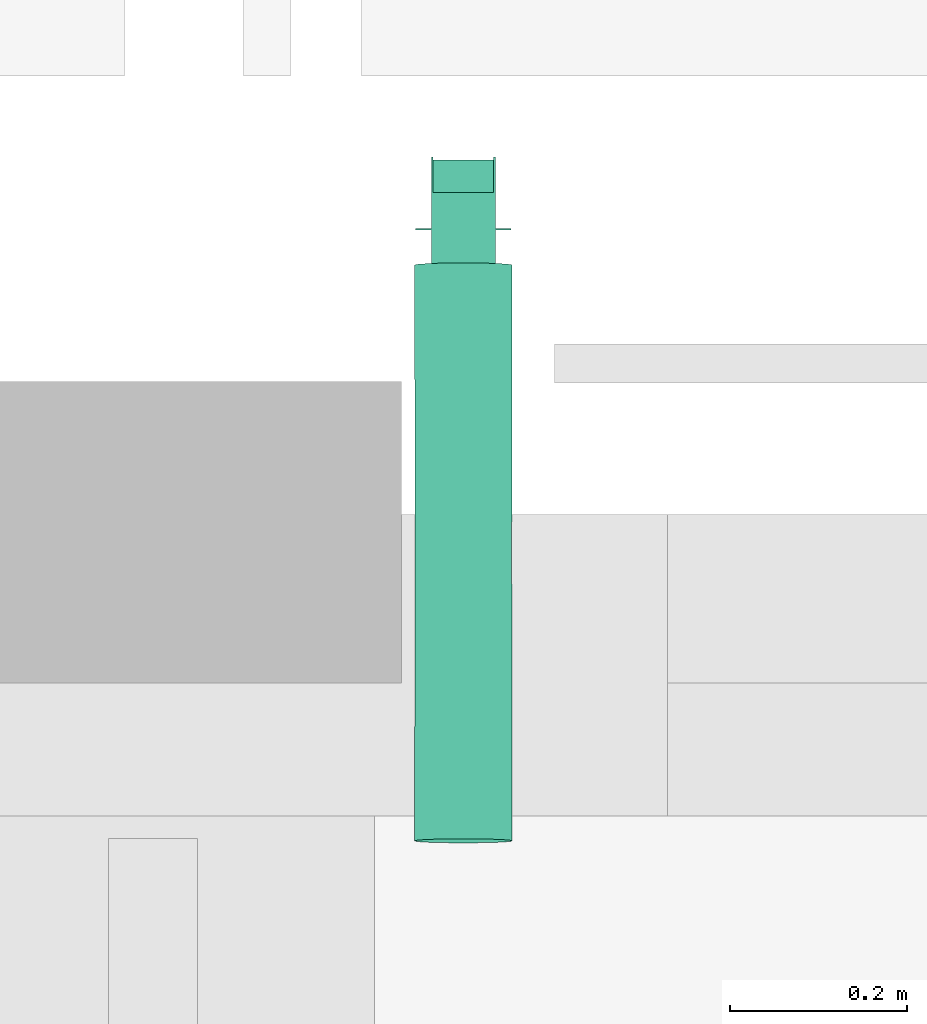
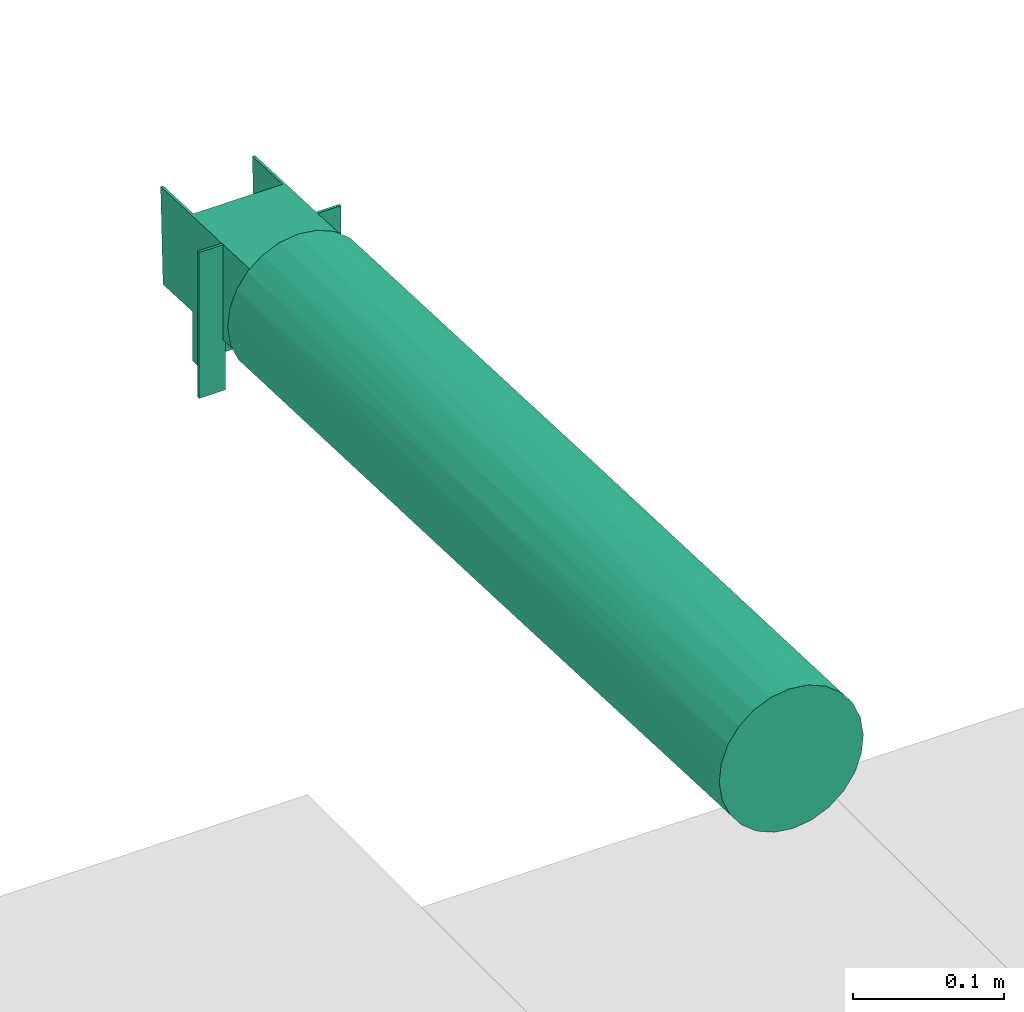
# One storey, part 25 of 26: 1 pipe fitting.
"""IFC4X3_ADD2 building model written with IfcOpenShell, lengths in millimetres."""

from ifc_helpers import new_model, si_unit, direction, frame, origin_with_axes, place, context, subcontext, project, spatial, polygons, source, transform, mapped, element, save


model = new_model("IFC4X3_ADD2")

# Units and contexts
model_context = context("Model", 3, precision=1e-05, world=origin_with_axes(), true_north=direction((0.0, 1.0)))
body_context = subcontext(model_context, "Body", "Model", "MODEL_VIEW")
ifc_project = project(units=[si_unit("LENGTHUNIT", "METRE", prefix="MILLI"), si_unit("AREAUNIT", "SQUARE_METRE"), si_unit("VOLUMEUNIT", "CUBIC_METRE"), si_unit("PLANEANGLEUNIT", "RADIAN"), si_unit("TIMEUNIT", "SECOND"), si_unit("MASSUNIT", "GRAM")], contexts=[model_context])

# Site, building, storey
site_placement = place(None, origin_with_axes())
site = spatial("IfcSite", under=ifc_project, at=site_placement, Name="Site", CompositionType="ELEMENT")
building_placement = place(site_placement, origin_with_axes())
building = spatial("IfcBuilding", under=site, at=building_placement, Name="IFC Building Story")
storey_placement = place(building_placement, frame((0.0, 0.0, 7200.0), z_axis=(0.0, 0.0, 1.0), x_axis=(1.0, 0.0, 0.0)))
storey = spatial("IfcBuildingStorey", under=building, at=storey_placement, Name="020", Elevation=7200.0)

# Pipe fitting
shared_shape = source(origin_with_axes(), body_context, "Body", "Tessellation", [
    polygons([(2.59527223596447, 80.2423912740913, 117.667377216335), (2.59527223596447, 80.2423912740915, 3.79003495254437e-11), (20.5952722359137, 80.2423912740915, 7.30935312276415e-11), (20.5952722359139, 80.2423912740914, 41.0150039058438), (20.5952722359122, 80.2423912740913, 117.667377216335), (2.59527223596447, 82.2423912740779, 117.667377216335), (2.59527223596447, 82.2423912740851, 7.28228144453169e-11), (110.595272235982, 82.2423912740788, 0.0), (110.595272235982, 82.2423912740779, 117.667377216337), (110.595272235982, 80.2423912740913, 117.667377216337), (110.595272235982, 80.2423912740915, 0.0), (92.5952722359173, 82.2423912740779, 117.667377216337), (92.5952722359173, 80.2423912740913, 117.667377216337), (92.5952722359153, 82.2423912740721, 41.0983372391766), (92.5952722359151, 80.2423912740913, 41.0150039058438), (20.5952722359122, 82.2423912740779, 117.667377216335), (20.5952722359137, 82.2423912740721, 41.0983372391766), (20.5952722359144, 42.242391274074, 1.12347464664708e-10), (20.5952722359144, 42.2423912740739, 39.4316705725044), (92.5952722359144, 42.2423912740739, 39.4316705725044), (92.5952722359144, 42.242391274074, 1.12347464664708e-10), (92.5952722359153, 80.2423912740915, 7.20106640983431e-11), (22.5952722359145, 82.2423912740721, 41.0983372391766), (22.5952722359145, 82.2423912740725, 1.08015996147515e-10), (22.5952722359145, 44.2423912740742, 9.33972899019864e-11), (90.5952722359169, 44.2423912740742, 9.33972899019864e-11), (90.5952722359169, 82.2423912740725, 1.08015996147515e-10), (90.5952722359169, 82.2423912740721, 41.0983372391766), (90.5952722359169, 44.2423912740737, 39.515003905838), (22.5952722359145, 44.2423912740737, 39.515003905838)], [[[4, 5, 1]], [[4, 1, 2]], [[2, 3, 4]], [[6, 7, 2, 1]], [[8, 9, 10, 11]], [[9, 12, 13, 10]], [[13, 12, 14, 15]], [[16, 5, 4, 17]], [[16, 6, 1, 5]], [[18, 19, 4, 3]], [[20, 21, 22, 15]], [[19, 18, 21, 20]], [[17, 23, 24]], [[17, 24, 7]], [[7, 6, 16]], [[7, 16, 17]], [[3, 2, 7]], [[3, 7, 24]], [[22, 21, 26]], [[22, 26, 27]], [[27, 8, 11]], [[27, 11, 22]], [[21, 18, 25]], [[21, 25, 26]], [[18, 3, 24]], [[18, 24, 25]], [[15, 14, 28]], [[4, 19, 30]], [[4, 30, 23]], [[23, 17, 4]], [[19, 20, 29]], [[19, 29, 30]], [[20, 15, 28]], [[20, 28, 29]], [[26, 29, 28, 27]], [[30, 25, 24, 23]], [[29, 26, 25, 30]], [[14, 12, 9]], [[14, 9, 8]], [[8, 27, 14]], [[27, 28, 14]], [[15, 22, 11]], [[11, 10, 13]], [[11, 13, 15]]]),
    polygons([(1.59527223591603, 121.601263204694, 81.2353264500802), (3.46935179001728, 122.193875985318, 67.0126197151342), (8.9638750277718, 122.746103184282, 53.7591669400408), (17.7043992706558, 123.220311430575, 42.378169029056), (29.0952722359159, 123.584184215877, 33.645222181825), (42.3602247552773, 123.812924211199, 28.1554622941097), (56.5952722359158, 123.890943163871, 26.2830074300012), (70.8303197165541, 123.812924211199, 28.1554622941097), (84.0952722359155, 123.584184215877, 33.6452221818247), (95.4861452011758, 123.220311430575, 42.3781690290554), (104.22666944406, 122.746103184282, 53.7591669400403), (109.721192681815, 122.193875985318, 67.0126197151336), (111.595272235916, 121.601263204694, 81.2353264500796), (109.721192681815, 121.008650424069, 95.4580331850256), (104.22666944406, 120.456423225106, 108.711485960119), (95.4861452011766, 119.982214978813, 120.092483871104), (84.0952722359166, 119.618342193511, 128.825430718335), (70.8303197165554, 119.389602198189, 134.31519060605), (56.595272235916, 119.311583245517, 136.187645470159), (42.3602247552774, 119.389602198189, 134.315190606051), (29.095272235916, 119.618342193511, 128.825430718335), (17.704399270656, 119.982214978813, 120.092483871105), (8.96387502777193, 120.456423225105, 108.71148596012), (3.46935179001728, 121.008650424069, 95.4580331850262), (29.095272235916, 769.054839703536, 155.885284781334), (42.3602247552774, 768.826099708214, 161.375044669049), (56.5952722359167, 768.748080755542, 163.247499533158), (70.8303197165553, 768.826099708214, 161.375044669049), (84.0952722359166, 769.054839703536, 155.885284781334), (95.4861452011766, 769.418712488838, 147.152337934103), (104.22666944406, 769.892920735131, 135.771340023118), (109.721192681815, 770.445147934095, 122.517887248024), (111.595272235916, 771.037760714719, 108.295180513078), (109.721192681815, 771.630373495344, 94.0724737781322), (104.22666944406, 772.182600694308, 80.8190210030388), (95.4861452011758, 772.6568089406, 69.438023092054), (84.0952722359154, 773.020681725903, 60.7050762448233), (70.8303197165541, 773.249421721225, 55.2153163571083), (56.5952722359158, 773.327440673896, 53.3428614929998), (42.3602247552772, 773.249421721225, 55.2153163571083), (29.0952722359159, 773.020681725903, 60.7050762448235), (17.7043992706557, 772.6568089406, 69.4380230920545), (8.96387502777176, 772.182600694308, 80.8190210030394), (3.46935179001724, 771.630373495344, 94.0724737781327), (1.59527223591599, 771.037760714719, 108.295180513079), (3.46935179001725, 770.445147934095, 122.517887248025), (8.9638750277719, 769.892920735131, 135.771340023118), (17.7043992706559, 769.418712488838, 147.152337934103), (77.6428610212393, 448.434900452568, 43.9959306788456), (67.0575535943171, 483.984405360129, 42.2920262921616), (67.0575535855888, 408.654618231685, 147.23848065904), (77.6428610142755, 444.204123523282, 145.534576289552), (56.5952722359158, 382.618184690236, 37.0633091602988), (56.5952722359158, 514.600199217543, 42.5625597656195), (100.229705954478, 447.713380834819, 61.3124012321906), (111.124739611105, 446.020648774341, 101.937970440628), (56.5952722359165, 510.020839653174, 152.467197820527), (90.0771508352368, 448.136037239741, 51.1686476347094), (107.408646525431, 447.195734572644, 73.7359114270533), (111.124739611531, 446.618375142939, 87.5925365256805), (56.595272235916, 378.038831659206, 146.967947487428), (107.408646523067, 445.443289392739, 115.794595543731), (90.0771508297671, 444.502986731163, 138.361859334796), (100.22970595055, 444.92564313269, 128.218105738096), (23.1133935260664, 444.502988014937, 138.3618592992), (35.5476832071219, 444.20412714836, 145.534576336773), (46.1329905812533, 479.488667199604, 150.189899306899), (12.9608384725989, 444.925643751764, 128.21810570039), (46.132990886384, 413.150363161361, 39.3406078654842), (35.5476834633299, 448.434900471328, 43.9959306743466), (5.78189792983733, 445.443289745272, 115.794595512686), (2.06580485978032, 446.020648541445, 101.937970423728), (2.06580486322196, 446.618375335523, 87.5925365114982), (5.78189795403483, 447.195734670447, 73.7359114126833), (12.9608385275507, 447.713380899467, 61.3124012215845), (23.113393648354, 448.136037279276, 51.1686476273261)], [[[1, 2, 3]], [[1, 3, 4]], [[1, 4, 5]], [[1, 5, 6]], [[1, 6, 7]], [[1, 7, 8]], [[1, 8, 9]], [[1, 9, 10]], [[1, 10, 11]], [[1, 11, 12]], [[1, 12, 13]], [[1, 13, 14]], [[1, 14, 15]], [[1, 15, 16]], [[1, 16, 17]], [[1, 17, 18]], [[1, 18, 19]], [[1, 19, 20]], [[1, 20, 21]], [[1, 21, 22]], [[1, 22, 23]], [[1, 23, 24]], [[25, 26, 27]], [[25, 27, 28]], [[25, 28, 29]], [[25, 29, 30]], [[25, 30, 31]], [[25, 31, 32]], [[25, 32, 33]], [[25, 33, 34]], [[25, 34, 35]], [[25, 35, 36]], [[25, 36, 37]], [[25, 37, 38]], [[25, 38, 39]], [[25, 39, 40]], [[25, 40, 41]], [[25, 41, 42]], [[25, 42, 43]], [[25, 43, 44]], [[25, 44, 45]], [[25, 45, 46]], [[25, 46, 47]], [[25, 47, 48]], [[49, 50, 38]], [[28, 51, 52]], [[50, 53, 54, 39]], [[37, 49, 38]], [[55, 36, 35]], [[13, 56, 14]], [[28, 27, 57]], [[37, 36, 58]], [[8, 50, 49]], [[59, 35, 34]], [[39, 38, 50]], [[53, 50, 8]], [[58, 49, 37]], [[8, 7, 53]], [[59, 55, 35]], [[9, 49, 58]], [[55, 58, 36]], [[10, 58, 55]], [[55, 59, 11]], [[10, 55, 11]], [[60, 13, 12]], [[8, 49, 9]], [[56, 60, 33]], [[51, 57, 61, 19]], [[62, 32, 31]], [[52, 63, 29]], [[17, 52, 18]], [[30, 64, 31]], [[52, 29, 28]], [[15, 64, 16]], [[63, 64, 30]], [[30, 29, 63]], [[28, 57, 51]], [[19, 18, 51]], [[32, 56, 33]], [[14, 56, 62]], [[60, 59, 34]], [[13, 60, 56]], [[59, 60, 12]], [[15, 62, 64]], [[64, 62, 31]], [[16, 64, 63]], [[63, 52, 17]], [[33, 60, 34]], [[62, 56, 32]], [[11, 59, 12]], [[14, 62, 15]], [[16, 63, 17]], [[51, 18, 52]], [[9, 58, 10]], [[65, 66, 25]], [[67, 20, 61]], [[66, 26, 25]], [[67, 26, 66]], [[68, 48, 47]], [[40, 69, 70]], [[67, 61, 57, 27]], [[25, 48, 65]], [[69, 54, 53, 7]], [[71, 47, 46]], [[20, 66, 21]], [[26, 67, 27]], [[20, 19, 61]], [[22, 68, 23]], [[21, 65, 22]], [[21, 66, 65]], [[23, 71, 24]], [[22, 65, 68]], [[68, 71, 23]], [[72, 71, 46]], [[72, 1, 24]], [[68, 65, 48]], [[73, 72, 45]], [[71, 68, 47]], [[74, 44, 43]], [[40, 39, 54]], [[69, 6, 70]], [[42, 75, 43]], [[70, 41, 40]], [[70, 76, 41]], [[5, 70, 6]], [[42, 41, 76]], [[4, 76, 5]], [[7, 6, 69]], [[44, 73, 45]], [[2, 73, 74]], [[45, 72, 46]], [[1, 72, 73]], [[2, 74, 3]], [[3, 74, 75]], [[3, 75, 4]], [[4, 75, 76]], [[76, 70, 5]], [[76, 75, 42]], [[74, 73, 44]], [[75, 74, 43]], [[40, 54, 69]], [[1, 73, 2]], [[20, 67, 66]], [[71, 72, 24]]]),
    polygons([(90.5952722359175, 120.083261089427, 117.667377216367), (22.5952722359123, 120.083261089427, 117.667377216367), (22.5952722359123, 120.000000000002, 119.665643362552), (90.5952722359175, 120.000000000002, 119.665643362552), (90.5952722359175, 40.0166903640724, 114.3312701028), (90.5952722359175, 39.9334292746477, 116.329536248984), (22.5952722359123, 39.9334292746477, 116.329536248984), (22.5952722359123, 40.0166903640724, 114.3312701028)], [[[1, 2, 3, 4]], [[5, 6, 7, 8]], [[2, 1, 5, 8]], [[4, 3, 7, 6]], [[3, 2, 8, 7]], [[1, 4, 6, 5]]]),
    polygons([(92.5952722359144, 0.0, 114.665643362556), (90.5952722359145, 0.0, 114.665643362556), (90.5952722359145, 3.11934390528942, 39.8013896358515), (22.5952722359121, 3.11934390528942, 39.8013896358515), (22.5952722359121, 0.0, 114.665643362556), (20.5952722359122, 0.0, 114.665643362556), (20.5952722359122, 3.20252640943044, 37.8050095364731), (92.5952722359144, 3.20252640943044, 37.8050095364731), (20.5952722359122, 123.202526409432, 42.8050095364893), (92.5952722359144, 123.202526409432, 42.8050095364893), (22.5952722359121, 123.119343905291, 44.8013896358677), (22.5952722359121, 120.0, 119.665643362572), (90.5952722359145, 123.119343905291, 44.8013896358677), (90.5952722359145, 120.0, 119.665643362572), (92.5952722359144, 120.0, 119.665643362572), (20.5952722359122, 120.0, 119.665643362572)], [[[4, 5, 6]], [[4, 6, 7]], [[7, 8, 3]], [[7, 3, 4]], [[8, 1, 2]], [[8, 2, 3]], [[9, 10, 8, 7]], [[11, 12, 5, 4]], [[13, 11, 4, 3]], [[14, 13, 3, 2]], [[13, 14, 15]], [[13, 15, 10]], [[10, 9, 11]], [[10, 11, 13]], [[9, 16, 12]], [[9, 12, 11]], [[10, 15, 1, 8]], [[16, 9, 7, 6]], [[12, 16, 6, 5]], [[15, 14, 2, 1]]]),
])
pipe_fitting_placement = place(storey_placement, frame((-12193.4047277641, 51198.2423912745, 3610.0), z_axis=(0.0, 0.0, 1.0), x_axis=(-1.0, 0.0, 0.0)))
element("IfcPipeFitting", 1, at=pipe_fitting_placement, inside=storey, Name="Afwerkstuk spuwer 70 x 70 RVS:Type 1", ObjectType="Afwerkstuk spuwer 70 x 70 RVS:Type 1", PredefinedType="EXIT", context=body_context, shape_type="MappedRepresentation", body=[
    mapped(shared_shape, transform((0.0, 0.0, 0.0))),
])

save(model, "model.ifc")
